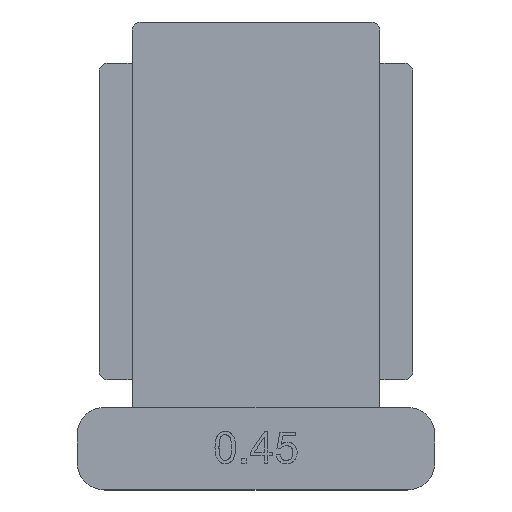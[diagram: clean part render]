
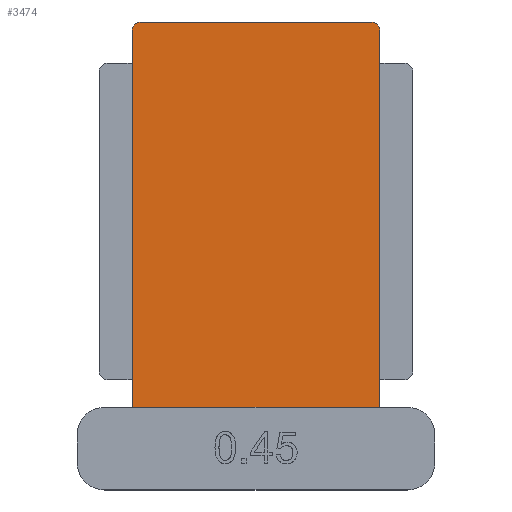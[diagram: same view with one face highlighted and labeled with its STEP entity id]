
A CAD part, top view. The second image highlights one B-rep face of the part: STEP entity #3474.
In plain terms, the highlighted planar face has unit normal (0, 0, 1).
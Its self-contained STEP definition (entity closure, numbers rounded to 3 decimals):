
#209 = PLANE('',#210);
#210 = AXIS2_PLACEMENT_3D('',#211,#212,#213);
#211 = CARTESIAN_POINT('',(13.,-13.5,0.));
#212 = DIRECTION('',(0.,-1.,0.));
#213 = DIRECTION('',(-1.,0.,0.));
#237 = PLANE('',#238);
#238 = AXIS2_PLACEMENT_3D('',#239,#240,#241);
#239 = CARTESIAN_POINT('',(9.,-14.5,0.));
#240 = DIRECTION('',(-1.,0.,0.));
#241 = DIRECTION('',(0.,1.,0.));
#431 = CYLINDRICAL_SURFACE('',#432,0.6);
#432 = AXIS2_PLACEMENT_3D('',#433,#434,#435);
#433 = CARTESIAN_POINT('',(8.4,13.9,0.));
#434 = DIRECTION('',(0.,0.,1.));
#435 = DIRECTION('',(1.,0.,-0.));
#459 = PLANE('',#460);
#460 = AXIS2_PLACEMENT_3D('',#461,#462,#463);
#461 = CARTESIAN_POINT('',(9.,14.5,0.));
#462 = DIRECTION('',(0.,-1.,0.));
#463 = DIRECTION('',(-1.,0.,0.));
#488 = CYLINDRICAL_SURFACE('',#489,0.6);
#489 = AXIS2_PLACEMENT_3D('',#490,#491,#492);
#490 = CARTESIAN_POINT('',(-8.4,13.9,0.));
#491 = DIRECTION('',(0.,0.,1.));
#492 = DIRECTION('',(-0.,1.,0.));
#516 = PLANE('',#517);
#517 = AXIS2_PLACEMENT_3D('',#518,#519,#520);
#518 = CARTESIAN_POINT('',(-9.,14.5,0.));
#519 = DIRECTION('',(1.,0.,-0.));
#520 = DIRECTION('',(0.,-1.,0.));
#1006 = VERTEX_POINT('',#1007);
#1007 = CARTESIAN_POINT('',(-9.,-13.5,3.36));
#1026 = EDGE_CURVE('',#1006,#1027,#1029,.T.);
#1027 = VERTEX_POINT('',#1028);
#1028 = CARTESIAN_POINT('',(9.,-13.5,3.36));
#1029 = SURFACE_CURVE('',#1030,(#1034,#1040),.PCURVE_S1.);
#1030 = LINE('',#1031,#1032);
#1031 = CARTESIAN_POINT('',(6.5,-13.5,3.36));
#1032 = VECTOR('',#1033,1.);
#1033 = DIRECTION('',(1.,0.,-0.));
#1034 = PCURVE('',#209,#1035);
#1035 = DEFINITIONAL_REPRESENTATION('',(#1036),#1039);
#1036 = B_SPLINE_CURVE_WITH_KNOTS('',1,(#1037,#1038),.UNSPECIFIED.,.F.,
  .F.,(2,2),(-15.5,2.5),.PIECEWISE_BEZIER_KNOTS.);
#1037 = CARTESIAN_POINT('',(22.,-3.36));
#1038 = CARTESIAN_POINT('',(4.,-3.36));
#1039 = ( GEOMETRIC_REPRESENTATION_CONTEXT(2) 
PARAMETRIC_REPRESENTATION_CONTEXT() REPRESENTATION_CONTEXT('2D SPACE',''
  ) );
#1040 = PCURVE('',#1041,#1046);
#1041 = PLANE('',#1042);
#1042 = AXIS2_PLACEMENT_3D('',#1043,#1044,#1045);
#1043 = CARTESIAN_POINT('',(0.,0.,3.36));
#1044 = DIRECTION('',(0.,0.,1.));
#1045 = DIRECTION('',(1.,0.,-0.));
#1046 = DEFINITIONAL_REPRESENTATION('',(#1047),#1050);
#1047 = B_SPLINE_CURVE_WITH_KNOTS('',1,(#1048,#1049),.UNSPECIFIED.,.F.,
  .F.,(2,2),(-15.5,2.5),.PIECEWISE_BEZIER_KNOTS.);
#1048 = CARTESIAN_POINT('',(-9.,-13.5));
#1049 = CARTESIAN_POINT('',(9.,-13.5));
#1050 = ( GEOMETRIC_REPRESENTATION_CONTEXT(2) 
PARAMETRIC_REPRESENTATION_CONTEXT() REPRESENTATION_CONTEXT('2D SPACE',''
  ) );
#1252 = VERTEX_POINT('',#1253);
#1253 = CARTESIAN_POINT('',(-9.,13.9,3.36));
#1274 = EDGE_CURVE('',#1252,#1006,#1275,.T.);
#1275 = SURFACE_CURVE('',#1276,(#1280,#1287),.PCURVE_S1.);
#1276 = LINE('',#1277,#1278);
#1277 = CARTESIAN_POINT('',(-9.,14.5,3.36));
#1278 = VECTOR('',#1279,1.);
#1279 = DIRECTION('',(0.,-1.,0.));
#1280 = PCURVE('',#516,#1281);
#1281 = DEFINITIONAL_REPRESENTATION('',(#1282),#1286);
#1282 = LINE('',#1283,#1284);
#1283 = CARTESIAN_POINT('',(0.,-3.36));
#1284 = VECTOR('',#1285,1.);
#1285 = DIRECTION('',(1.,0.));
#1286 = ( GEOMETRIC_REPRESENTATION_CONTEXT(2) 
PARAMETRIC_REPRESENTATION_CONTEXT() REPRESENTATION_CONTEXT('2D SPACE',''
  ) );
#1287 = PCURVE('',#1041,#1288);
#1288 = DEFINITIONAL_REPRESENTATION('',(#1289),#1293);
#1289 = LINE('',#1290,#1291);
#1290 = CARTESIAN_POINT('',(-9.,14.5));
#1291 = VECTOR('',#1292,1.);
#1292 = DIRECTION('',(0.,-1.));
#1293 = ( GEOMETRIC_REPRESENTATION_CONTEXT(2) 
PARAMETRIC_REPRESENTATION_CONTEXT() REPRESENTATION_CONTEXT('2D SPACE',''
  ) );
#1368 = EDGE_CURVE('',#1369,#1252,#1371,.T.);
#1369 = VERTEX_POINT('',#1370);
#1370 = CARTESIAN_POINT('',(-8.4,14.5,3.36));
#1371 = SURFACE_CURVE('',#1372,(#1377,#1384),.PCURVE_S1.);
#1372 = CIRCLE('',#1373,0.6);
#1373 = AXIS2_PLACEMENT_3D('',#1374,#1375,#1376);
#1374 = CARTESIAN_POINT('',(-8.4,13.9,3.36));
#1375 = DIRECTION('',(0.,0.,1.));
#1376 = DIRECTION('',(0.,-1.,0.));
#1377 = PCURVE('',#488,#1378);
#1378 = DEFINITIONAL_REPRESENTATION('',(#1379),#1383);
#1379 = LINE('',#1380,#1381);
#1380 = CARTESIAN_POINT('',(-3.142,3.36));
#1381 = VECTOR('',#1382,1.);
#1382 = DIRECTION('',(1.,0.));
#1383 = ( GEOMETRIC_REPRESENTATION_CONTEXT(2) 
PARAMETRIC_REPRESENTATION_CONTEXT() REPRESENTATION_CONTEXT('2D SPACE',''
  ) );
#1384 = PCURVE('',#1041,#1385);
#1385 = DEFINITIONAL_REPRESENTATION('',(#1386),#1390);
#1386 = CIRCLE('',#1387,0.6);
#1387 = AXIS2_PLACEMENT_2D('',#1388,#1389);
#1388 = CARTESIAN_POINT('',(-8.4,13.9));
#1389 = DIRECTION('',(0.,-1.));
#1390 = ( GEOMETRIC_REPRESENTATION_CONTEXT(2) 
PARAMETRIC_REPRESENTATION_CONTEXT() REPRESENTATION_CONTEXT('2D SPACE',''
  ) );
#1418 = VERTEX_POINT('',#1419);
#1419 = CARTESIAN_POINT('',(8.4,14.5,3.36));
#1440 = EDGE_CURVE('',#1418,#1369,#1441,.T.);
#1441 = SURFACE_CURVE('',#1442,(#1446,#1453),.PCURVE_S1.);
#1442 = LINE('',#1443,#1444);
#1443 = CARTESIAN_POINT('',(9.,14.5,3.36));
#1444 = VECTOR('',#1445,1.);
#1445 = DIRECTION('',(-1.,0.,0.));
#1446 = PCURVE('',#459,#1447);
#1447 = DEFINITIONAL_REPRESENTATION('',(#1448),#1452);
#1448 = LINE('',#1449,#1450);
#1449 = CARTESIAN_POINT('',(0.,-3.36));
#1450 = VECTOR('',#1451,1.);
#1451 = DIRECTION('',(1.,0.));
#1452 = ( GEOMETRIC_REPRESENTATION_CONTEXT(2) 
PARAMETRIC_REPRESENTATION_CONTEXT() REPRESENTATION_CONTEXT('2D SPACE',''
  ) );
#1453 = PCURVE('',#1041,#1454);
#1454 = DEFINITIONAL_REPRESENTATION('',(#1455),#1459);
#1455 = LINE('',#1456,#1457);
#1456 = CARTESIAN_POINT('',(9.,14.5));
#1457 = VECTOR('',#1458,1.);
#1458 = DIRECTION('',(-1.,0.));
#1459 = ( GEOMETRIC_REPRESENTATION_CONTEXT(2) 
PARAMETRIC_REPRESENTATION_CONTEXT() REPRESENTATION_CONTEXT('2D SPACE',''
  ) );
#1467 = EDGE_CURVE('',#1468,#1418,#1470,.T.);
#1468 = VERTEX_POINT('',#1469);
#1469 = CARTESIAN_POINT('',(9.,13.9,3.36));
#1470 = SURFACE_CURVE('',#1471,(#1476,#1483),.PCURVE_S1.);
#1471 = CIRCLE('',#1472,0.6);
#1472 = AXIS2_PLACEMENT_3D('',#1473,#1474,#1475);
#1473 = CARTESIAN_POINT('',(8.4,13.9,3.36));
#1474 = DIRECTION('',(0.,0.,1.));
#1475 = DIRECTION('',(0.,-1.,0.));
#1476 = PCURVE('',#431,#1477);
#1477 = DEFINITIONAL_REPRESENTATION('',(#1478),#1482);
#1478 = LINE('',#1479,#1480);
#1479 = CARTESIAN_POINT('',(-1.571,3.36));
#1480 = VECTOR('',#1481,1.);
#1481 = DIRECTION('',(1.,0.));
#1482 = ( GEOMETRIC_REPRESENTATION_CONTEXT(2) 
PARAMETRIC_REPRESENTATION_CONTEXT() REPRESENTATION_CONTEXT('2D SPACE',''
  ) );
#1483 = PCURVE('',#1041,#1484);
#1484 = DEFINITIONAL_REPRESENTATION('',(#1485),#1489);
#1485 = CIRCLE('',#1486,0.6);
#1486 = AXIS2_PLACEMENT_2D('',#1487,#1488);
#1487 = CARTESIAN_POINT('',(8.4,13.9));
#1488 = DIRECTION('',(0.,-1.));
#1489 = ( GEOMETRIC_REPRESENTATION_CONTEXT(2) 
PARAMETRIC_REPRESENTATION_CONTEXT() REPRESENTATION_CONTEXT('2D SPACE',''
  ) );
#1517 = EDGE_CURVE('',#1027,#1468,#1518,.T.);
#1518 = SURFACE_CURVE('',#1519,(#1523,#1530),.PCURVE_S1.);
#1519 = LINE('',#1520,#1521);
#1520 = CARTESIAN_POINT('',(9.,-14.5,3.36));
#1521 = VECTOR('',#1522,1.);
#1522 = DIRECTION('',(0.,1.,0.));
#1523 = PCURVE('',#237,#1524);
#1524 = DEFINITIONAL_REPRESENTATION('',(#1525),#1529);
#1525 = LINE('',#1526,#1527);
#1526 = CARTESIAN_POINT('',(0.,-3.36));
#1527 = VECTOR('',#1528,1.);
#1528 = DIRECTION('',(1.,0.));
#1529 = ( GEOMETRIC_REPRESENTATION_CONTEXT(2) 
PARAMETRIC_REPRESENTATION_CONTEXT() REPRESENTATION_CONTEXT('2D SPACE',''
  ) );
#1530 = PCURVE('',#1041,#1531);
#1531 = DEFINITIONAL_REPRESENTATION('',(#1532),#1536);
#1532 = LINE('',#1533,#1534);
#1533 = CARTESIAN_POINT('',(9.,-14.5));
#1534 = VECTOR('',#1535,1.);
#1535 = DIRECTION('',(0.,1.));
#1536 = ( GEOMETRIC_REPRESENTATION_CONTEXT(2) 
PARAMETRIC_REPRESENTATION_CONTEXT() REPRESENTATION_CONTEXT('2D SPACE',''
  ) );
#3474 = ADVANCED_FACE('',(#3475),#1041,.T.);
#3475 = FACE_BOUND('',#3476,.T.);
#3476 = EDGE_LOOP('',(#3477,#3478,#3479,#3480,#3481,#3482));
#3477 = ORIENTED_EDGE('',*,*,#1274,.T.);
#3478 = ORIENTED_EDGE('',*,*,#1026,.T.);
#3479 = ORIENTED_EDGE('',*,*,#1517,.T.);
#3480 = ORIENTED_EDGE('',*,*,#1467,.T.);
#3481 = ORIENTED_EDGE('',*,*,#1440,.T.);
#3482 = ORIENTED_EDGE('',*,*,#1368,.T.);
